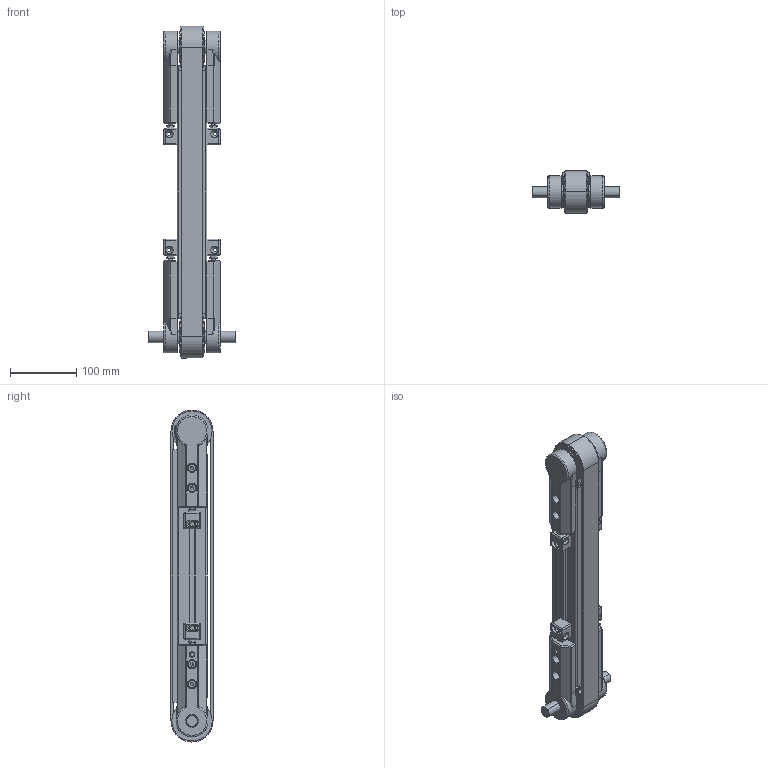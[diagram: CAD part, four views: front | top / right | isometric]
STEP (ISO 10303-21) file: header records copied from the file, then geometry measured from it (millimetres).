
FILE_DESCRIPTION (( 'STEP AP214' ), '1' );
FILE_NAME ('1.9019 HHK 45 32AT10_500mm_KO.STEP', '2026-03-27T08:07:20', ( '' ), ( '' ), 'SwSTEP 2.0', 'SolidWorks 2025', '' );
FILE_SCHEMA (( 'AUTOMOTIVE_DESIGN' ));
Length unit declared in the file: millimetre
Products named in the file (13): 1.8067 Kulj.laakeri 45_32 G2 reiällä; 3.1005 32 AT10 NFT 1; 1.3040 Monikiinnike 45; 1.8043 Akseli D20_17 L132 kiila 6x28; 1.0022 Profiili 45X45 L_Default<As Machined>; 3.2002 Hammashihnapyörä 32AT10_19D20_0; 1.8112 Taittopää 45 32AT10; 1.8037 Akseli D20_17 L75; 1.6039 Liukukisko hihnalle 32_Default<As Machined>; 1.9019 HHK 45 32AT10_500mm_KO; 3.2003 Hammashihnapyörä 32AT10_19D20_K6_0; 1.8066 Kulj.laakeri 45_32 G2; 45 32AT10 Vetopää_Veto molemminpuolin
Assembly tree (17 placements, depth 3):
  1.9019 HHK 45 32AT10_500mm_KO
    1.0022 Profiili 45X45 L_Default<As Machined>
    1.8112 Taittopää 45 32AT10
      1.8066 Kulj.laakeri 45_32 G2  x2
      1.8037 Akseli D20_17 L75
      3.2002 Hammashihnapyörä 32AT10_19D20_0
    1.3040 Monikiinnike 45  x4
    1.6039 Liukukisko hihnalle 32_Default<As Machined>
    45 32AT10 Vetopää_Veto molemminpuolin
      1.8067 Kulj.laakeri 45_32 G2 reiällä  x2
      1.8043 Akseli D20_17 L132 kiila 6x28
      3.2003 Hammashihnapyörä 32AT10_19D20_K6_0
    3.1005 32 AT10 NFT 1
Bounding box: 132 x 63.5 x 500 mm (x, y, z)
Volume: 771217.7 mm3; surface area: 521420.7 mm2
Topology: 21 solids, 53 shells, 2441 faces, 6221 edges, 3942 vertices
Faces by surface type: plane 1036, cylinder 821, cone 280, bspline 236, torus 52, sphere 16
Entity records: 94416 total; most frequent: CARTESIAN_POINT 34194, ORIENTED_EDGE 9090, DIRECTION 8008, EDGE_CURVE 4553, VERTEX_POINT 2948, AXIS2_PLACEMENT_3D 2886, VECTOR 2236, LINE 2236
